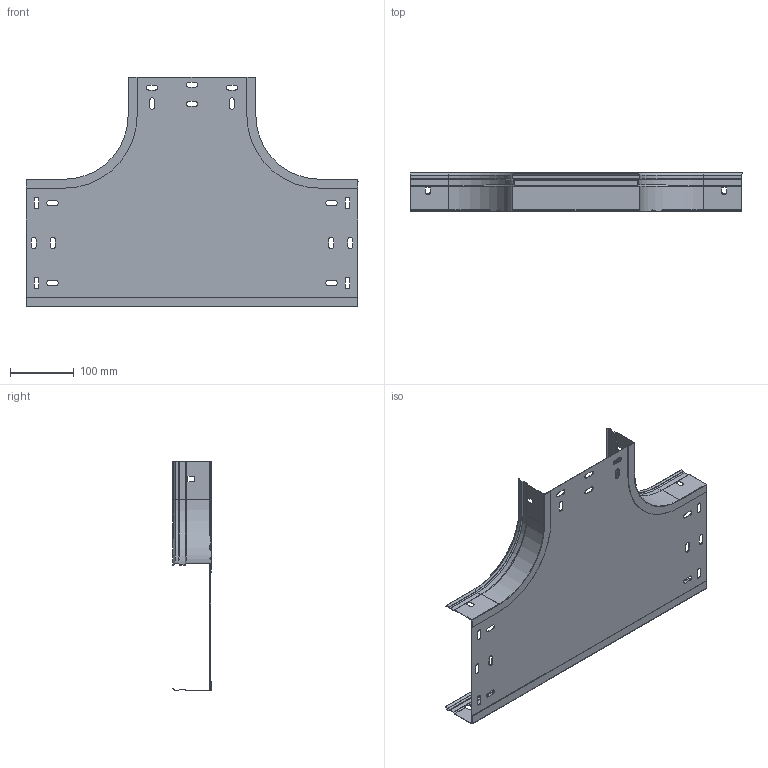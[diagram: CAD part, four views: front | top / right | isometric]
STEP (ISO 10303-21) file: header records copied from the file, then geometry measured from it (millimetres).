
FILE_DESCRIPTION (( 'STEP AP203' ), '1' );
FILE_NAME ('TERC 200x60.STEP', '2020-02-12T08:43:41', ( '' ), ( '' ), 'SwSTEP 2.0', 'SolidWorks 2019', '' );
FILE_SCHEMA (( 'CONFIG_CONTROL_DESIGN' ));
Length unit declared in the file: millimetre
Products named in the file (4): ERE_BASE TE_200; TERC 200x60; ERE_LATERAL RECTO TE_200 x 60; ERE_LATERAL INT CP_60
Assembly tree (4 placements, depth 2):
  TERC 200x60
    ERE_BASE TE_200
    ERE_LATERAL RECTO TE_200 x 60
    ERE_LATERAL INT CP_60  x2
Bounding box: 520 x 60.2 x 360 mm (x, y, z)
Volume: 210762.8 mm3; surface area: 442491.7 mm2
Topology: 4 solids, 4 shells, 276 faces, 704 edges, 432 vertices
Faces by surface type: plane 164, cylinder 92, cone 14, bspline 6
Entity records: 7280 total; most frequent: CARTESIAN_POINT 1299, DIRECTION 1162, ORIENTED_EDGE 1144, EDGE_CURVE 572, LINE 404, VECTOR 404, AXIS2_PLACEMENT_3D 379, VERTEX_POINT 352
